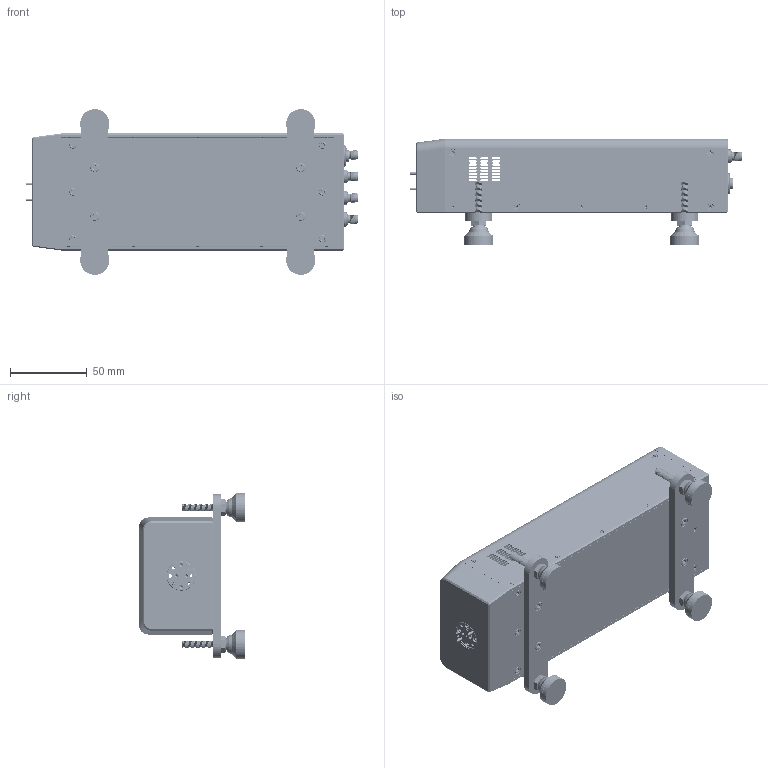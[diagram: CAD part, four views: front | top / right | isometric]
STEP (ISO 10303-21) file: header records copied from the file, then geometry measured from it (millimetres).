
FILE_DESCRIPTION (( 'STEP AP214' ), '1' );
FILE_NAME ('TO-SG-A-2, DF.STEP', '2025-09-02T20:02:04', ( '' ), ( '' ), 'SwSTEP 2.0', 'SolidWorks 2021', '' );
FILE_SCHEMA (( 'AUTOMOTIVE_DESIGN' ));
Length unit declared in the file: inch
Products named in the file (1): TO-SG-A-2, DF
Bounding box: 216.16 x 69.22 x 107.95 mm (x, y, z)
Volume: 237657.3 mm3; surface area: 165951 mm2
Topology: 110 solids, 110 shells, 6416 faces, 17253 edges, 11063 vertices
Faces by surface type: cylinder 3461, plane 1446, cone 1007, bspline 482, sphere 16, torus 4
Entity records: 446517 total; most frequent: CARTESIAN_POINT 220773, ORIENTED_EDGE 34122, DIRECTION 24738, EDGE_CURVE 17061, VERTEX_POINT 11039, AXIS2_PLACEMENT_3D 9164, EDGE_LOOP 6948, UNCERTAINTY_MEASURE_WITH_UNIT 6496
